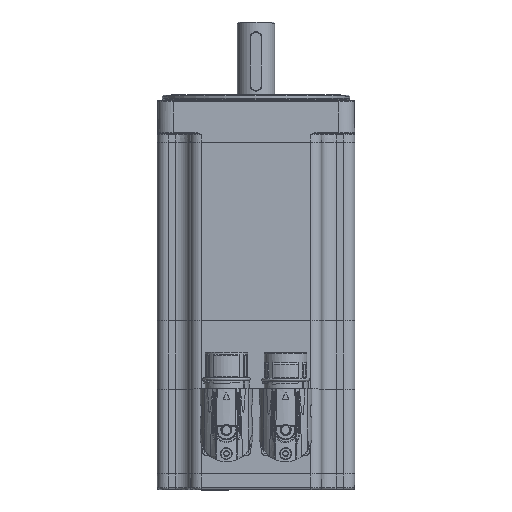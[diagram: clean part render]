
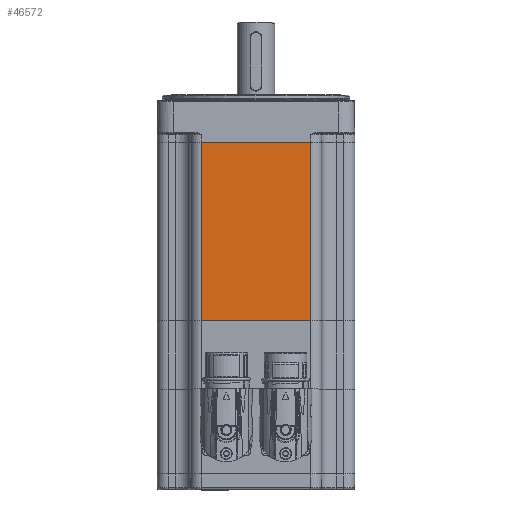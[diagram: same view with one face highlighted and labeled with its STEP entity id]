
A CAD part, top view. The second image highlights one B-rep face of the part: STEP entity #46572.
In plain terms, the highlighted planar face has unit normal (0, 0, 1).
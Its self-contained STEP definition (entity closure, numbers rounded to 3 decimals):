
#11659=ORIENTED_EDGE('',*,*,#17184,.T.);
#11660=ORIENTED_EDGE('',*,*,#17117,.T.);
#11661=ORIENTED_EDGE('',*,*,#17185,.T.);
#11662=ORIENTED_EDGE('',*,*,#17147,.T.);
#17117=EDGE_CURVE('',#20627,#20628,#22940,.T.);
#17147=EDGE_CURVE('',#20658,#20656,#22952,.T.);
#17184=EDGE_CURVE('',#20656,#20627,#22970,.T.);
#17185=EDGE_CURVE('',#20628,#20658,#22971,.T.);
#20627=VERTEX_POINT('',#76165);
#20628=VERTEX_POINT('',#76166);
#20656=VERTEX_POINT('',#76224);
#20658=VERTEX_POINT('',#76227);
#22940=LINE('',#76164,#24939);
#22952=LINE('',#76226,#24951);
#22970=LINE('',#76304,#24969);
#22971=LINE('',#76305,#24970);
#24939=VECTOR('',#57653,1000.);
#24951=VECTOR('',#57703,1000.);
#24969=VECTOR('',#57781,1000.);
#24970=VECTOR('',#57782,1000.);
#27403=EDGE_LOOP('',(#11659,#11660,#11661,#11662));
#30163=FACE_BOUND('',#27403,.T.);
#31435=PLANE('',#49821);
#46572=ADVANCED_FACE('',(#30163),#31435,.T.);
#49821=AXIS2_PLACEMENT_3D('',#76303,#57779,#57780);
#57653=DIRECTION('',(-1.,0.,0.));
#57703=DIRECTION('',(1.,0.,0.));
#57779=DIRECTION('',(0.,0.,1.));
#57780=DIRECTION('',(1.,0.,0.));
#57781=DIRECTION('',(0.,1.,0.));
#57782=DIRECTION('',(0.,-1.,0.));
#76164=CARTESIAN_POINT('',(50.,91.5,50.));
#76165=CARTESIAN_POINT('',(27.75,91.5,50.));
#76166=CARTESIAN_POINT('',(-27.75,91.5,50.));
#76224=CARTESIAN_POINT('',(27.75,1.,50.));
#76226=CARTESIAN_POINT('',(50.,1.,50.));
#76227=CARTESIAN_POINT('',(-27.75,1.,50.));
#76303=CARTESIAN_POINT('',(50.,200.,50.));
#76304=CARTESIAN_POINT('',(27.75,200.,50.));
#76305=CARTESIAN_POINT('',(-27.75,200.,50.));
